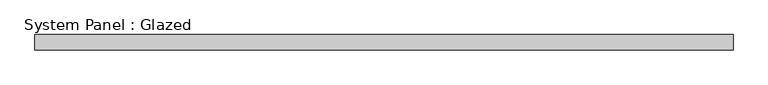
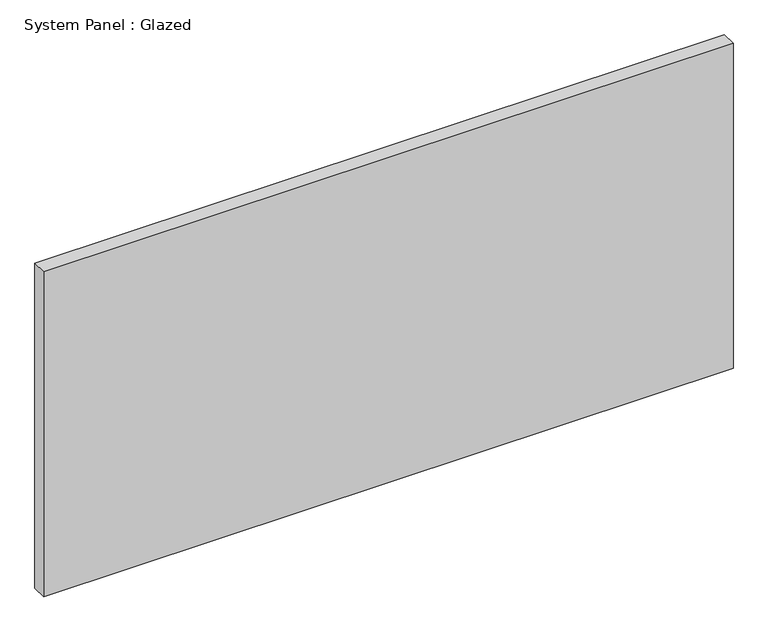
"""IFC4 building model written with IfcOpenShell, lengths in millimetres: plate geometry, System Panel : Glazed."""

from ifc_helpers import new_model, si_unit, origin, origin_with_axes, place, context, project, spatial, polyline, outline, extrude, source, transform, mapped, element, save


def system_panel_glazed_4484050c(model_context):
    return source(origin(), model_context, "Body", "SweptSolid", [
        extrude(outline(polyline([(586.3065357, -44.45), (-586.3065357, -44.45), (-586.3065357, -19.05), (586.3065357, -19.05), (586.3065357, -44.45)])), origin_with_axes(), (0.0, 0.0, 1.0), 584.2),
    ])


if __name__ == "__main__":
    model = new_model("IFC4")
    model_context = context("Model", 3, world=origin())
    ifc_project = project(units=[si_unit("LENGTHUNIT", "METRE", prefix="MILLI")], contexts=[model_context])
    site = spatial("IfcSite", under=ifc_project)
    building = spatial("IfcBuilding", under=site)
    placement = place(None, origin())
    system_panel_glazed_shape = system_panel_glazed_4484050c(model_context)
    element("IfcPlate", 1, ObjectType="System Panel : Glazed", at=placement, inside=building, context=model_context, shape_type="MappedRepresentation", body=[
        mapped(system_panel_glazed_shape, transform((0.0, 0.0, 0.0), x_axis=(1.0, 0.0, 0.0), y_axis=(0.0, 1.0, 0.0), z_axis=(0.0, 0.0, 1.0))),
    ])
    save(model, "model.ifc")
